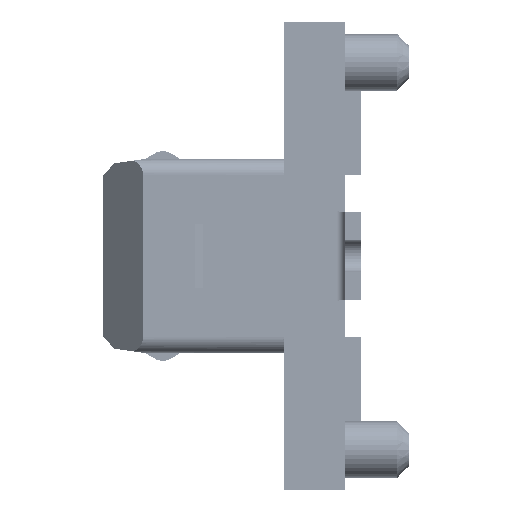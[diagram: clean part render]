
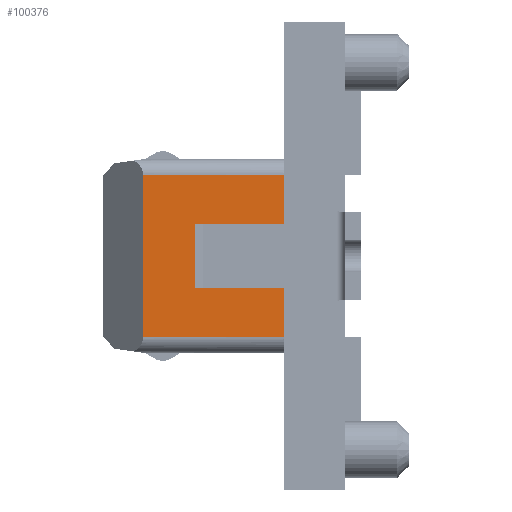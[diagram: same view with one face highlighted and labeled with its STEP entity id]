
A CAD part, left-side view. The second image highlights one B-rep face of the part: STEP entity #100376.
In plain terms, the highlighted planar face has unit normal (-1, 0, 0).
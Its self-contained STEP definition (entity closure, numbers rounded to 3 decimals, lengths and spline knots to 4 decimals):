
#1285=DIRECTION('',(0.,-1.,0.));
#1286=VECTOR('',#1285,1.1073);
#1287=CARTESIAN_POINT('',(11.15,-1.1427,-3.3));
#1288=LINE('',#1287,#1286);
#1289=DIRECTION('',(0.,0.,-1.));
#1290=VECTOR('',#1289,0.6);
#1291=CARTESIAN_POINT('',(11.15,-2.25,-3.3));
#1292=LINE('',#1291,#1290);
#1293=DIRECTION('',(0.,1.,0.));
#1294=VECTOR('',#1293,1.1073);
#1295=CARTESIAN_POINT('',(11.15,-2.25,-2.5));
#1296=LINE('',#1295,#1294);
#1297=DIRECTION('',(0.,-1.,0.));
#1298=VECTOR('',#1297,1.75);
#1299=CARTESIAN_POINT('',(11.15,-0.5,-3.9));
#1300=LINE('',#1299,#1298);
#20466=DIRECTION('',(0.,0.,1.));
#20467=VECTOR('',#20466,0.6);
#20468=CARTESIAN_POINT('',(11.15,-2.25,-2.5));
#20469=LINE('',#20468,#20467);
#20743=DIRECTION('',(0.,0.,-1.));
#20744=VECTOR('',#20743,2.);
#20745=CARTESIAN_POINT('',(11.15,-0.5,-1.9));
#20746=LINE('',#20745,#20744);
#20765=DIRECTION('',(0.,1.,0.));
#20766=VECTOR('',#20765,1.75);
#20767=CARTESIAN_POINT('',(11.15,-2.25,-1.9));
#20768=LINE('',#20767,#20766);
#20769=CARTESIAN_POINT('',(11.15,-0.5,-1.9));
#74129=DIRECTION('',(0.,0.,1.));
#74130=VECTOR('',#74129,0.8);
#74131=CARTESIAN_POINT('',(11.15,-1.1427,-3.3));
#74132=LINE('',#74131,#74130);
#74662=CARTESIAN_POINT('',(11.15,-2.25,-3.9));
#74664=VERTEX_POINT('',#74662);
#75619=CARTESIAN_POINT('',(11.15,-1.1427,-2.5));
#75620=VERTEX_POINT('',#75619);
#75621=CARTESIAN_POINT('',(11.15,-2.25,-2.5));
#75622=VERTEX_POINT('',#75621);
#75631=CARTESIAN_POINT('',(11.15,-2.25,-3.3));
#75632=VERTEX_POINT('',#75631);
#75633=CARTESIAN_POINT('',(11.15,-1.1427,-3.3));
#75634=VERTEX_POINT('',#75633);
#75641=CARTESIAN_POINT('',(11.15,-2.25,-1.9));
#75642=VERTEX_POINT('',#75641);
#75645=CARTESIAN_POINT('',(11.15,-0.5,-3.9));
#75646=VERTEX_POINT('',#75645);
#81933=VERTEX_POINT('',#20769);
#100356=CARTESIAN_POINT('',(11.15,-1.375,-2.9));
#100357=DIRECTION('',(1.,0.,0.));
#100358=DIRECTION('',(0.,-1.,0.));
#100359=AXIS2_PLACEMENT_3D('',#100356,#100357,#100358);
#100360=PLANE('',#100359);
#100361=ORIENTED_EDGE('',*,*,#100265,.T.);
#100362=ORIENTED_EDGE('',*,*,#98268,.T.);
#100364=ORIENTED_EDGE('',*,*,#100363,.F.);
#100366=ORIENTED_EDGE('',*,*,#100365,.F.);
#100368=ORIENTED_EDGE('',*,*,#100367,.F.);
#100370=ORIENTED_EDGE('',*,*,#100369,.F.);
#100371=ORIENTED_EDGE('',*,*,#100234,.T.);
#100373=ORIENTED_EDGE('',*,*,#100372,.F.);
#100374=EDGE_LOOP('',(#100361,#100362,#100364,#100366,#100368,#100370,#100371,
#100373));
#100375=FACE_OUTER_BOUND('',#100374,.F.);
#98268=EDGE_CURVE('',#75632,#74664,#1292,.T.);
#100234=EDGE_CURVE('',#75622,#75620,#1296,.T.);
#100265=EDGE_CURVE('',#75634,#75632,#1288,.T.);
#100363=EDGE_CURVE('',#75646,#74664,#1300,.T.);
#100365=EDGE_CURVE('',#81933,#75646,#20746,.T.);
#100367=EDGE_CURVE('',#75642,#81933,#20768,.T.);
#100369=EDGE_CURVE('',#75622,#75642,#20469,.T.);
#100372=EDGE_CURVE('',#75634,#75620,#74132,.T.);
#100376=ADVANCED_FACE('',(#100375),#100360,.F.);
